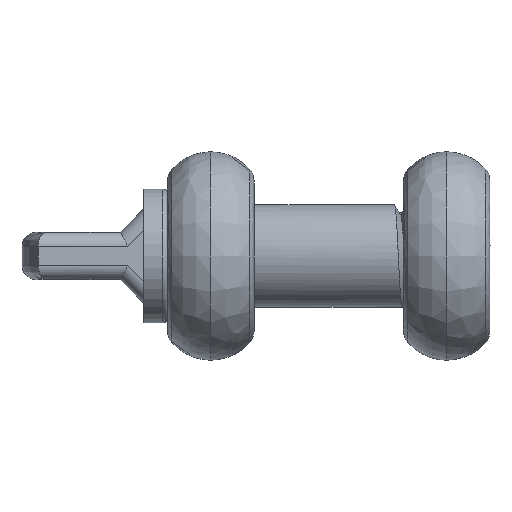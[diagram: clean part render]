
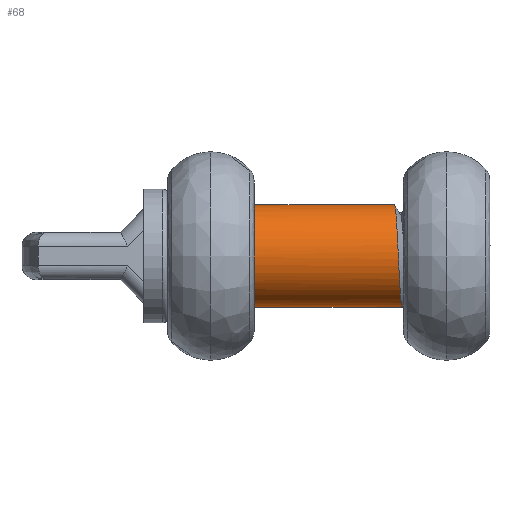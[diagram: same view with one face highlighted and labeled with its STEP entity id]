
A CAD part, front view. The second image highlights one B-rep face of the part: STEP entity #68.
In plain terms, the highlighted cylindrical face has radius 6.5 mm (diameter 13 mm), a partial arc.
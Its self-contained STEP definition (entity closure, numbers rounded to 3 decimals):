
#68=ADVANCED_FACE('NONE',(#372),#373,.T.);
#372=FACE_OUTER_BOUND('',#992,.T.);
#373=CYLINDRICAL_SURFACE('',#993,6.5);
#992=EDGE_LOOP('',(#6808,#6809,#6810,#6811));
#993=AXIS2_PLACEMENT_3D('',#6812,#6813,#6814);
#6808=ORIENTED_EDGE('',*,*,#8978,.F.);
#6809=ORIENTED_EDGE('',*,*,#8986,.F.);
#6810=ORIENTED_EDGE('',*,*,#8985,.T.);
#6811=ORIENTED_EDGE('',*,*,#8987,.F.);
#6812=CARTESIAN_POINT('',(-20.25,0.0,0.0));
#6813=DIRECTION('',(-1.0,0.0,0.0));
#6814=DIRECTION('',(0.0,0.0,-1.0));
#8978=EDGE_CURVE('NONE',#9803,#9806,#9807,.T.);
#8985=EDGE_CURVE('NONE',#9804,#9818,#9820,.T.);
#8986=EDGE_CURVE('NONE',#9804,#9803,#9821,.T.);
#8987=EDGE_CURVE('NONE',#9806,#9818,#9822,.T.);
#9803=VERTEX_POINT('NONE',#11175);
#9804=VERTEX_POINT('NONE',#11176);
#9806=VERTEX_POINT('NONE',#11178);
#9807=LINE('',#11179,#11180);
#9818=VERTEX_POINT('NONE',#11262);
#9820=LINE('',#11306,#11307);
#9821=CIRCLE('',#11308,6.5);
#9822=B_SPLINE_CURVE_WITH_KNOTS('',3,(#11309,#11310,#11311,#11312,#11313,#11314,#11315,#11316,#11317,#11318,#11319,#11320,#11321,#11322,#11323,#11324,#11325,#11326,#11327,#11328,#11329,#11330,#11331,#11332,#11333,#11334,#11335,#11336,#11337,#11338,#11339,#11340,#11341,#11342,#11343,#11344,#11345,#11346,#11347,#11348,#11349,#11350,#11351),.UNSPECIFIED.,.F.,.F.,(4,2,2,2,2,2,2,2,1,2,2,2,2,2,2,2,2,2,2,2,2,4),(0.013,0.014,0.015,0.016,0.017,0.018,0.019,0.02,0.021,0.021,0.022,0.023,0.024,0.026,0.026,0.027,0.028,0.03,0.03,0.031,0.032,0.033),.UNSPECIFIED.);
#11175=CARTESIAN_POINT('',(-20.25,0.,6.5));
#11176=CARTESIAN_POINT('',(-20.25,0.,-6.5));
#11178=CARTESIAN_POINT('',(8.354,0.,6.5));
#11179=CARTESIAN_POINT('',(-20.25,0.,6.5));
#11180=VECTOR('',#17753,1000.0);
#11262=CARTESIAN_POINT('',(9.34,0.,-6.5));
#11306=CARTESIAN_POINT('',(-20.25,0.0,-6.5));
#11307=VECTOR('',#17755,1000.0);
#11308=AXIS2_PLACEMENT_3D('',#17756,#17757,#17758);
#11309=CARTESIAN_POINT('',(8.354,0.,6.5));
#11310=CARTESIAN_POINT('',(8.375,-0.429,6.5));
#11311=CARTESIAN_POINT('',(8.395,-0.852,6.458));
#11312=CARTESIAN_POINT('',(8.425,-1.475,6.334));
#11313=CARTESIAN_POINT('',(8.436,-1.681,6.283));
#11314=CARTESIAN_POINT('',(8.456,-2.089,6.159));
#11315=CARTESIAN_POINT('',(8.467,-2.292,6.086));
#11316=CARTESIAN_POINT('',(8.498,-2.882,5.842));
#11317=CARTESIAN_POINT('',(8.518,-3.255,5.642));
#11318=CARTESIAN_POINT('',(8.559,-3.962,5.17));
#11319=CARTESIAN_POINT('',(8.58,-4.297,4.896));
#11320=CARTESIAN_POINT('',(8.621,-4.896,4.296));
#11321=CARTESIAN_POINT('',(8.642,-5.165,3.969));
#11322=CARTESIAN_POINT('',(8.673,-5.522,3.436));
#11323=CARTESIAN_POINT('',(8.683,-5.632,3.252));
#11324=CARTESIAN_POINT('',(8.703,-5.833,2.876));
#11325=CARTESIAN_POINT('',(8.723,-6.014,2.493));
#11326=CARTESIAN_POINT('',(8.744,-6.157,2.094));
#11327=CARTESIAN_POINT('',(8.764,-6.281,1.688));
#11328=CARTESIAN_POINT('',(8.775,-6.333,1.479));
#11329=CARTESIAN_POINT('',(8.806,-6.458,0.85));
#11330=CARTESIAN_POINT('',(8.827,-6.5,0.428));
#11331=CARTESIAN_POINT('',(8.867,-6.5,-0.42));
#11332=CARTESIAN_POINT('',(8.888,-6.458,-0.85));
#11333=CARTESIAN_POINT('',(8.929,-6.292,-1.684));
#11334=CARTESIAN_POINT('',(8.95,-6.17,-2.089));
#11335=CARTESIAN_POINT('',(8.981,-5.926,-2.679));
#11336=CARTESIAN_POINT('',(8.991,-5.834,-2.874));
#11337=CARTESIAN_POINT('',(9.012,-5.633,-3.25));
#11338=CARTESIAN_POINT('',(9.022,-5.524,-3.433));
#11339=CARTESIAN_POINT('',(9.052,-5.171,-3.961));
#11340=CARTESIAN_POINT('',(9.073,-4.903,-4.289));
#11341=CARTESIAN_POINT('',(9.115,-4.297,-4.896));
#11342=CARTESIAN_POINT('',(9.135,-3.967,-5.166));
#11343=CARTESIAN_POINT('',(9.165,-3.44,-5.519));
#11344=CARTESIAN_POINT('',(9.176,-3.258,-5.629));
#11345=CARTESIAN_POINT('',(9.196,-2.882,-5.83));
#11346=CARTESIAN_POINT('',(9.206,-2.687,-5.922));
#11347=CARTESIAN_POINT('',(9.237,-2.096,-6.167));
#11348=CARTESIAN_POINT('',(9.258,-1.691,-6.29));
#11349=CARTESIAN_POINT('',(9.299,-0.859,-6.457));
#11350=CARTESIAN_POINT('',(9.32,-0.429,-6.5));
#11351=CARTESIAN_POINT('',(9.34,0.,-6.5));
#17753=DIRECTION('',(1.0,0.0,0.0));
#17755=DIRECTION('',(1.0,0.0,0.0));
#17756=CARTESIAN_POINT('',(-20.25,0.0,0.0));
#17757=DIRECTION('',(-1.0,-0.0,0.0));
#17758=DIRECTION('',(0.0,0.,-1.0));
